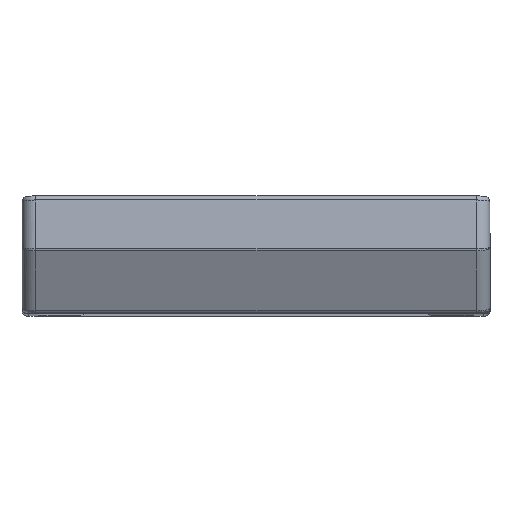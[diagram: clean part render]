
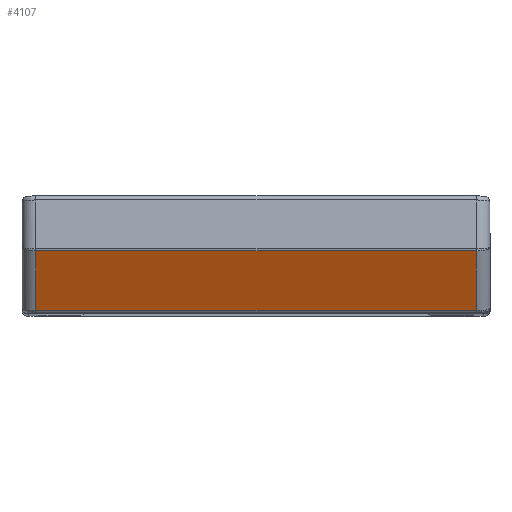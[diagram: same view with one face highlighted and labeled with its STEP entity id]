
A CAD part, left-side view. The second image highlights one B-rep face of the part: STEP entity #4107.
In plain terms, the highlighted planar face has unit normal (-0.913, 0, -0.407).
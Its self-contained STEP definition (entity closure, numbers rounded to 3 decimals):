
#523=PLANE('',#4568);
#718=FACE_OUTER_BOUND('',#1027,.T.);
#1027=EDGE_LOOP('',(#3641,#3642,#3643,#3644));
#1428=LINE('',#6940,#1742);
#1429=LINE('',#6943,#1743);
#1430=LINE('',#6947,#1744);
#1431=LINE('',#6948,#1745);
#1742=VECTOR('',#5729,10.);
#1743=VECTOR('',#5732,10.);
#1744=VECTOR('',#5737,10.);
#1745=VECTOR('',#5738,10.);
#2122=VERTEX_POINT('',#6901);
#2123=VERTEX_POINT('',#6924);
#2128=VERTEX_POINT('',#6942);
#2129=VERTEX_POINT('',#6946);
#2665=EDGE_CURVE('',#2123,#2122,#1428,.T.);
#2666=EDGE_CURVE('',#2122,#2128,#1429,.T.);
#2668=EDGE_CURVE('',#2129,#2123,#1430,.T.);
#2669=EDGE_CURVE('',#2128,#2129,#1431,.T.);
#3641=ORIENTED_EDGE('',*,*,#2665,.F.);
#3642=ORIENTED_EDGE('',*,*,#2668,.F.);
#3643=ORIENTED_EDGE('',*,*,#2669,.F.);
#3644=ORIENTED_EDGE('',*,*,#2666,.F.);
#4107=ADVANCED_FACE('',(#718),#523,.T.);
#4568=AXIS2_PLACEMENT_3D('',#6945,#5735,#5736);
#5729=DIRECTION('',(0.407,0.,-0.914));
#5732=DIRECTION('',(0.,1.,0.));
#5735=DIRECTION('center_axis',(-0.914,0.,-0.407));
#5736=DIRECTION('ref_axis',(-0.407,0.,0.914));
#5737=DIRECTION('',(0.,-1.,0.));
#5738=DIRECTION('',(-0.407,0.,0.914));
#6901=CARTESIAN_POINT('',(-25.301,3.,4.694));
#6924=CARTESIAN_POINT('',(-31.145,3.,17.821));
#6940=CARTESIAN_POINT('',(-22.498,3.,-1.601));
#6942=CARTESIAN_POINT('',(-25.301,100.,4.694));
#6943=CARTESIAN_POINT('',(-25.301,0.,4.694));
#6945=CARTESIAN_POINT('Origin',(-25.038,0.,4.104));
#6946=CARTESIAN_POINT('',(-31.145,100.,17.821));
#6947=CARTESIAN_POINT('',(-31.145,0.,17.821));
#6948=CARTESIAN_POINT('',(-22.498,100.,-1.601));
